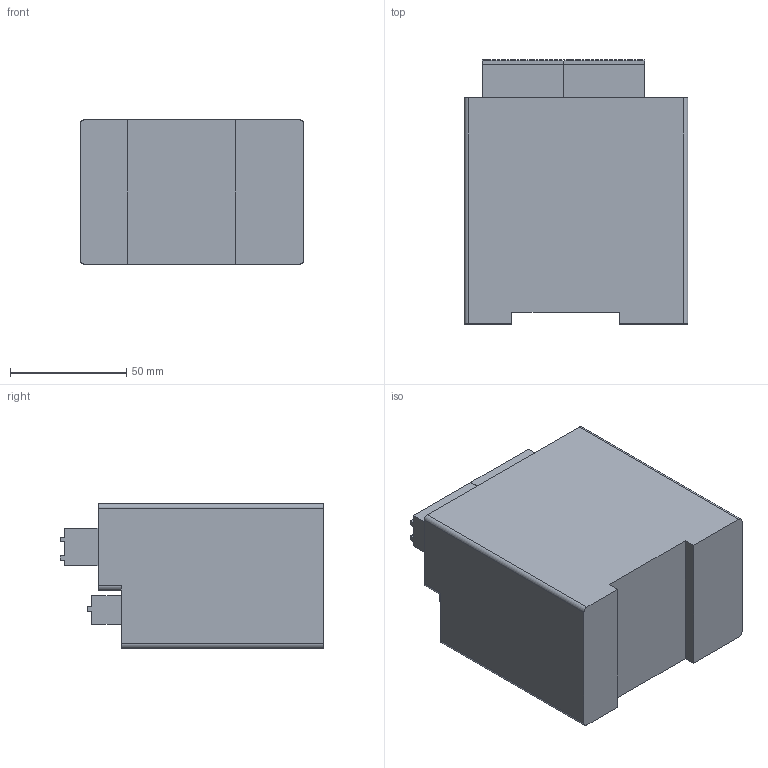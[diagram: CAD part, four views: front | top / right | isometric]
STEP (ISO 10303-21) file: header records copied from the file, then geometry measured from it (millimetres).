
FILE_DESCRIPTION((''),'2;1');
FILE_NAME('8862-20260528_ASM','2026-05-28T',('Administrator'),(''),'PRO/ENGINEER BY PARAMETRIC TECHNOLOGY CORPORATION, 2015240','PRO/ENGINEER BY PARAMETRIC TECHNOLOGY CORPORATION, 2015240','');
FILE_SCHEMA(('CONFIG_CONTROL_DESIGN'));
Products named in the file (11): PRT0001_2; AMP_RJ45_MODULAR_JACK_HOUSING_1; AMP_RJ45_MODULAR_JACK_PIN_1; AMP_RJ45_MODULAR_JACK_SOLDER_PI; AMP_RJ45_MODULAR_JACK_SHIELD_1; ASM0001_ASM_1_ASM; RJ45_MODULAR_JACK_-_AMP_1-40654_ASM; 03_1; 02_1; ASM0002_ASM_3_ASM; 8862-20260528_ASM
Assembly tree (26 placements, depth 5):
  8862-20260528_ASM
    ASM0002_ASM_3_ASM
      PRT0001_2
      RJ45_MODULAR_JACK_-_AMP_1-40654_ASM
        ASM0001_ASM_1_ASM
          AMP_RJ45_MODULAR_JACK_HOUSING_1
          AMP_RJ45_MODULAR_JACK_PIN_1  x8
          AMP_RJ45_MODULAR_JACK_SOLDER_PI  x8
          AMP_RJ45_MODULAR_JACK_SHIELD_1
      03_1  x2
      ASM0001_ASM_1_ASM
        AMP_RJ45_MODULAR_JACK_HOUSING_1
        AMP_RJ45_MODULAR_JACK_PIN_1  x8
        AMP_RJ45_MODULAR_JACK_SOLDER_PI  x8
        AMP_RJ45_MODULAR_JACK_SHIELD_1
      02_1
Bounding box: 96 x 113.3 x 62 mm (x, y, z)
Volume: 552728.8 mm3; surface area: 68186.2 mm2
Topology: 40 solids, 80 shells, 7596 faces, 21314 edges, 14194 vertices
Faces by surface type: plane 6572, cylinder 918, bspline 76, sphere 22, torus 8
Entity records: 195020 total; most frequent: CARTESIAN_POINT 37081, ORIENTED_EDGE 34054, DIRECTION 30246, EDGE_CURVE 17027, VECTOR 15758, LINE 15758, VERTEX_POINT 11343, AXIS2_PLACEMENT_3D 7244
